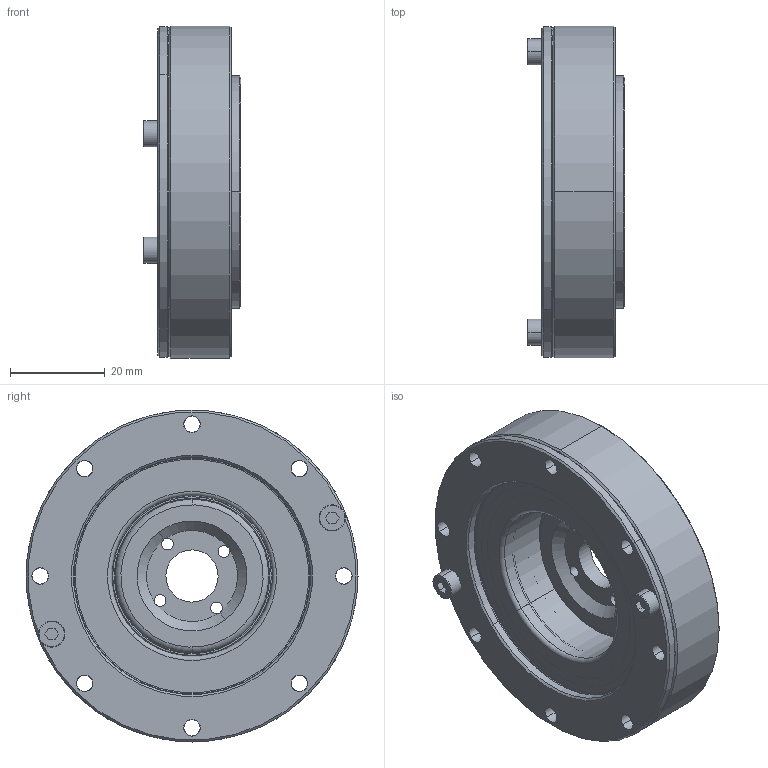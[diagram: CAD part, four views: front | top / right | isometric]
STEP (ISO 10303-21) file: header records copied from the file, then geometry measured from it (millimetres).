
FILE_DESCRIPTION (( 'STEP AP214' ), '1' );
FILE_NAME ('SHD-14-xxx.STEP', '2021-07-16T06:48:57', ( 'PC' ), ( 'Microsoft' ), 'SwSTEP 2.0', 'SolidWorks 2016', '' );
FILE_SCHEMA (( 'AUTOMOTIVE_DESIGN' ));
Length unit declared in the file: millimetre
Products named in the file (14): SHD-14-詩謫; SHD-14蝠脫粣創_蕼偞; ﾄﾚﾁﾇﾔｲﾖｷﾂﾝM2｡ﾁ5_M2｡ﾁ5; SHD-14蝠脫粣創黑芛; SHD14蝠脫粣創-蚐猾-58x49x5; SHD-14交叉轴承内圈; SHD-14交叉轴承外圈; SHD-14-xxx; ﾄﾚﾁﾇﾔｲﾖｷﾂﾝｶ､M2.5｡ﾁ8_M2.5｡ﾁ8; 内六角圆柱头螺钉M3×8_M3×8; SHD-14-疏楷汜ん; 芧謫SHD-14; 薄-14柔性轴承; 柔轮SHD-14
Assembly tree (17 placements, depth 3):
  SHD-14-xxx
    SHD-14蝠脫粣創_蕼偞
      SHD-14交叉轴承外圈
      SHD-14交叉轴承内圈
      SHD14蝠脫粣創-蚐猾-58x49x5
      SHD-14蝠脫粣創黑芛
      ﾄﾚﾁﾇﾔｲﾖｷﾂﾝM2｡ﾁ5_M2｡ﾁ5
    SHD-14-詩謫
    柔轮SHD-14
    SHD-14-疏楷汜ん
      薄-14柔性轴承
      芧謫SHD-14
    内六角圆柱头螺钉M3×8_M3×8  x2
    ﾄﾚﾁﾇﾔｲﾖｷﾂﾝｶ､M2.5｡ﾁ8_M2.5｡ﾁ8  x4
Bounding box: 20.5 x 70 x 70 mm (x, y, z)
Volume: 40824.5 mm3; surface area: 39543.7 mm2
Topology: 15 solids, 15 shells, 490 faces, 1126 edges, 694 vertices
Faces by surface type: cylinder 209, plane 118, cone 109, torus 50, bspline 4
Entity records: 13689 total; most frequent: CARTESIAN_POINT 2499, DIRECTION 2326, ORIENTED_EDGE 1892, AXIS2_PLACEMENT_3D 981, EDGE_CURVE 946, VERTEX_POINT 590, CIRCLE 553, EDGE_LOOP 544
